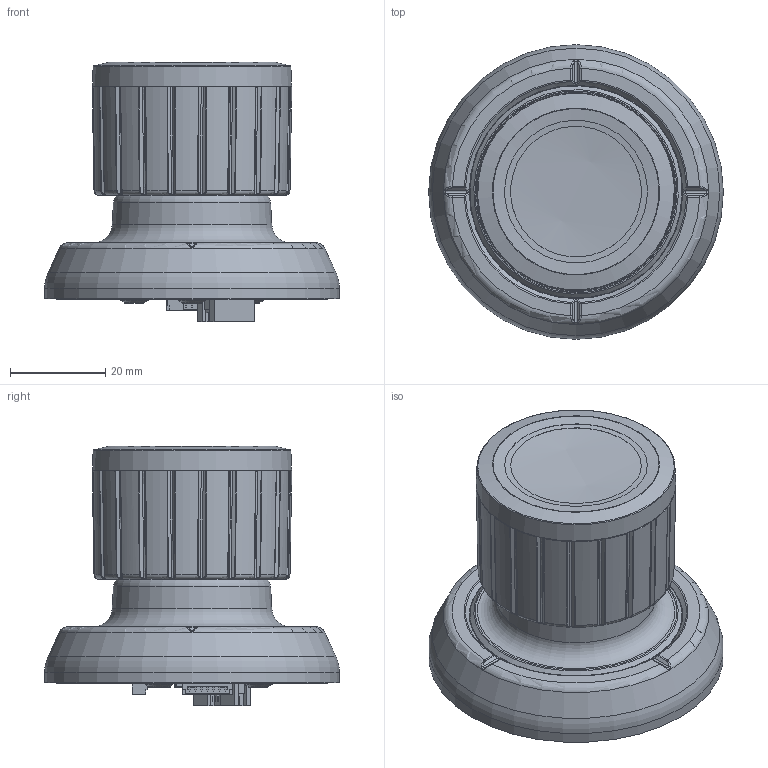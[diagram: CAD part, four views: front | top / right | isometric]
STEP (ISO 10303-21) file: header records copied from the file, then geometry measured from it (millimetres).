
FILE_DESCRIPTION(/* description */ (''),/* implementation_level */ '2;1');
FILE_NAME(/* name */ 'S:\Entwicklung\01_CAD-Daten\01_AIDATA-GT\1_1_Joysticks\SK225\Zusammenstellungen\STEP\225-032.stp',/* time_stamp */ '2025-04-01T15:09:35+02:00',/* author */ ('jub'),/* organization */ (''),/* preprocessor_version */ 'ST-DEVELOPER v18.1',/* originating_system */ 'Autodesk Inventor 2021',/* authorisation */ '');
FILE_SCHEMA (('AUTOMOTIVE_DESIGN { 1 0 10303 214 3 1 1 }'));
Length unit declared in the file: millimetre
Products named in the file (1): 225-032_Shrinkwrap_1
Bounding box: 62 x 62 x 54.6 mm (x, y, z)
Volume: 43003.1 mm3; surface area: 55714.5 mm2
Topology: 27 solids, 27 shells, 5240 faces, 13735 edges, 8394 vertices
Faces by surface type: plane 2248, cylinder 962, bspline 959, cone 420, torus 356, sphere 295
Full cylindrical faces by diameter (mm): 0.2 x1, 0.25 x1, 0.4 x1, 0.55 x14, 0.7 x5, 0.8 x4, 1.55 x1, 2 x2, 2.4 x4, 2.5 x3, 2.55 x1, 2.8 x3, 3.1 x3, 3.15 x4, 3.2 x7, 3.5 x3, 4.5 x3, 6.1 x3, 7 x1, 10 x1, 12 x1, 12.5 x1, 14.5 x1, 17.5 x1, 18.4 x1, 19 x1, 19.3 x1, 20.5 x2, 22 x1, 22.2 x1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
Entity records: 198571 total; most frequent: CARTESIAN_POINT 70486, ORIENTED_EDGE 27114, DIRECTION 23472, EDGE_CURVE 13557, AXIS2_PLACEMENT_3D 8462, VERTEX_POINT 8406, LINE 6548, VECTOR 6548
